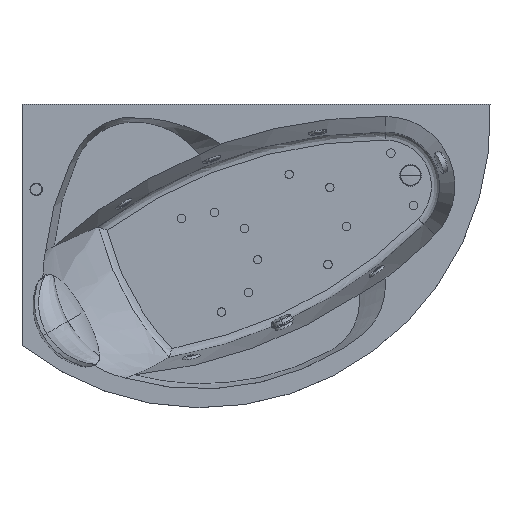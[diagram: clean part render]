
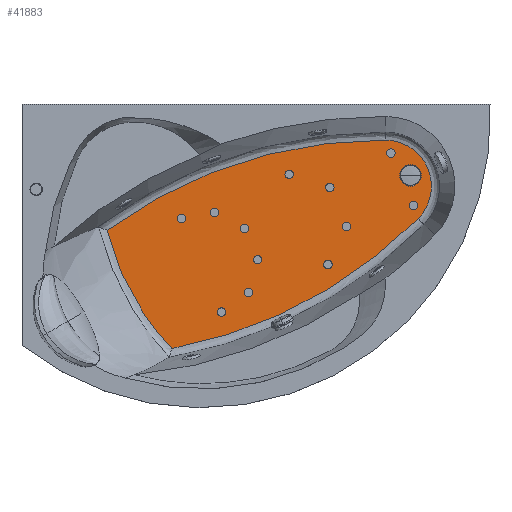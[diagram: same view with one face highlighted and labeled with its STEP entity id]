
A CAD part, top view. The second image highlights one B-rep face of the part: STEP entity #41883.
In plain terms, the highlighted planar face has unit normal (0, 0, 1).
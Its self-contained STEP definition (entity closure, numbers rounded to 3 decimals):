
#40969=CARTESIAN_POINT('',(528.536,-860.498,-403.0));
#40970=VERTEX_POINT('',#40969);
#40983=CARTESIAN_POINT('',(299.971,-443.388,-403.0));
#40984=VERTEX_POINT('',#40983);
#40985=CARTESIAN_POINT('',(299.971,-443.388,-403.0));
#40986=CARTESIAN_POINT('',(303.541,-458.027,-403.0));
#40987=CARTESIAN_POINT('',(315.568,-502.405,-403.0));
#40988=CARTESIAN_POINT('',(342.793,-579.282,-403.0));
#40989=CARTESIAN_POINT('',(383.37,-663.945,-403.0));
#40990=CARTESIAN_POINT('',(427.256,-735.849,-403.0));
#40991=CARTESIAN_POINT('',(463.784,-786.179,-403.0));
#40992=CARTESIAN_POINT('',(493.156,-822.013,-403.0));
#40993=CARTESIAN_POINT('',(513.33,-844.571,-403.));
#40994=CARTESIAN_POINT('',(524.883,-856.724,-403.0));
#40995=CARTESIAN_POINT('',(528.536,-860.498,-403.0));
#40996=B_SPLINE_CURVE_WITH_KNOTS('',3,(#40985,#40986,#40987,#40988,#40989,#40990,#40991,#40992,#40993,#40994,#40995),.UNSPECIFIED.,.F.,.U.,(4,1,1,1,1,1,1,1,4),(19.051,64.256,156.928,263.42,345.451,409.397,449.868,484.412,500.169),.UNSPECIFIED.);
#40997=EDGE_CURVE('',#40984,#40970,#40996,.T.);
#41107=CARTESIAN_POINT('',(1282.265,-125.713,-403.0));
#41108=VERTEX_POINT('',#41107);
#41109=CARTESIAN_POINT('',(1272.231,-1772.215,-403.0));
#41110=DIRECTION('',(0.0,0.0,1.0));
#41111=DIRECTION('',(-0.688,0.726,0.0));
#41112=AXIS2_PLACEMENT_3D('',#41109,#41110,#41111);
#41113=CIRCLE('',#41112,1646.532);
#41114=EDGE_CURVE('',#41108,#40984,#41113,.T.);
#41187=CARTESIAN_POINT('',(1396.356,-402.415,-403.0));
#41188=VERTEX_POINT('',#41187);
#41196=CARTESIAN_POINT('',(228.744,758.512,-403.));
#41197=DIRECTION('',(0.0,0.0,1.));
#41198=DIRECTION('',(0.078,-0.997,0.0));
#41199=AXIS2_PLACEMENT_3D('',#41196,#41197,#41198);
#41200=CIRCLE('',#41199,1646.532);
#41201=EDGE_CURVE('',#40970,#41188,#41200,.T.);
#41485=CARTESIAN_POINT('',(1281.276,-287.993,-403.0));
#41486=DIRECTION('',(0.0,0.0,1.0));
#41487=DIRECTION('',(0.006,1.,0.0));
#41488=AXIS2_PLACEMENT_3D('',#41485,#41486,#41487);
#41489=CIRCLE('',#41488,162.283);
#41490=EDGE_CURVE('',#41188,#41108,#41489,.T.);
#41811=CARTESIAN_POINT('',(1331.809,-250.,-403.0));
#41812=VERTEX_POINT('',#41811);
#41819=CARTESIAN_POINT('',(1408.191,-250.,-403.0));
#41820=VERTEX_POINT('',#41819);
#41821=CARTESIAN_POINT('',(1370.0,-250.0,-403.0));
#41822=DIRECTION('',(0.,0.,1.0));
#41823=DIRECTION('',(1.0,0.,0.0));
#41824=AXIS2_PLACEMENT_3D('',#41821,#41822,#41823);
#41825=CIRCLE('',#41824,38.191);
#41826=EDGE_CURVE('',#41812,#41820,#41825,.T.);
#41856=CARTESIAN_POINT('',(1370.0,-250.0,-403.0));
#41857=DIRECTION('',(0.,0.,1.0));
#41858=DIRECTION('',(1.0,0.,0.0));
#41859=AXIS2_PLACEMENT_3D('',#41856,#41857,#41858);
#41860=CIRCLE('',#41859,38.191);
#41861=EDGE_CURVE('',#41820,#41812,#41860,.T.);
#41868=CARTESIAN_POINT('',(1470.816,-100.749,-403.0));
#41869=DIRECTION('',(0.0,0.0,1.0));
#41870=DIRECTION('',(-1.,0.006,0.0));
#41871=AXIS2_PLACEMENT_3D('',#41868,#41869,#41870);
#41872=PLANE('',#41871);
#41873=ORIENTED_EDGE('',*,*,#41490,.T.);
#41874=ORIENTED_EDGE('',*,*,#41114,.T.);
#41875=ORIENTED_EDGE('',*,*,#40997,.T.);
#41876=ORIENTED_EDGE('',*,*,#41201,.T.);
#41877=EDGE_LOOP('',(#41873,#41874,#41875,#41876));
#41878=FACE_OUTER_BOUND('',#41877,.T.);
#41879=ORIENTED_EDGE('',*,*,#41826,.F.);
#41880=ORIENTED_EDGE('',*,*,#41861,.F.);
#41881=EDGE_LOOP('',(#41879,#41880));
#41882=FACE_BOUND('',#41881,.T.);
#41883=ADVANCED_FACE('',(#41878,#41882),#41872,.T.);
